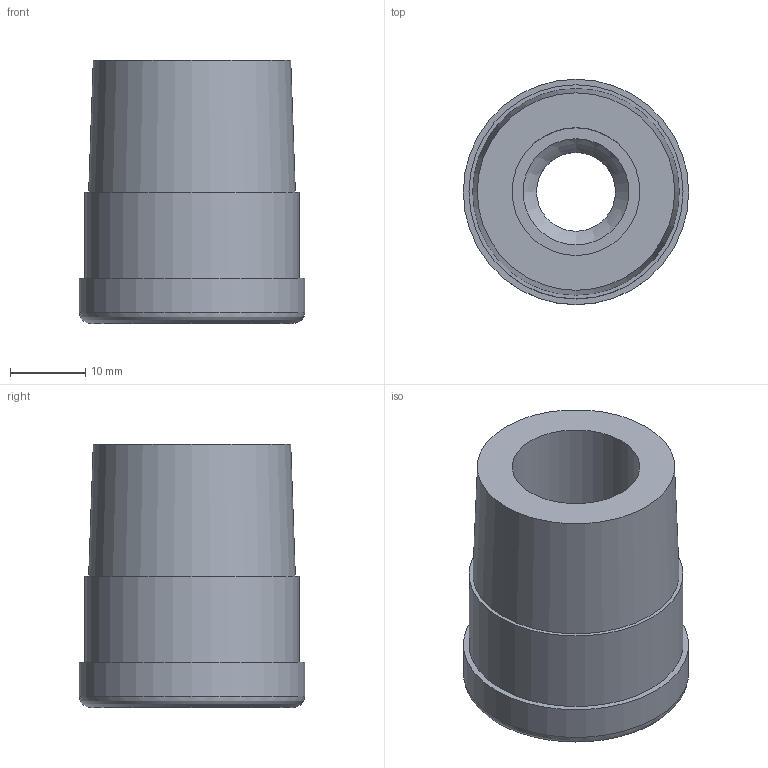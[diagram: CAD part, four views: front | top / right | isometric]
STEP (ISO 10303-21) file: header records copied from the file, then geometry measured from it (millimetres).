
FILE_DESCRIPTION(('STEP AP203'),'2;1');
FILE_NAME('17001I.stp','2015-11-27T07:28:36',(''),(''),'2008.1.107','THINKDESIGN','');
FILE_SCHEMA(('CONFIG_CONTROL_DESIGN'));
Length unit declared in the file: millimetre
Bounding box: 30 x 30 x 35 mm (x, y, z)
Volume: 16258 mm3; surface area: 8134.3 mm2
Topology: 2 solids, 2 shells, 17 faces, 44 edges, 34 vertices
Faces by surface type: plane 7, cylinder 6, bspline 4
Full cylindrical faces by diameter (mm): 10.5 x1, 17 x1, 19 x2, 28.5 x1, 30 x1
Entity records: 1174 total; most frequent: CARTESIAN_POINT 618, DIRECTION 105, ORIENTED_EDGE 88, AXIS2_PLACEMENT_3D 48, EDGE_CURVE 44, CIRCLE 35, VERTEX_POINT 34, EDGE_LOOP 24
